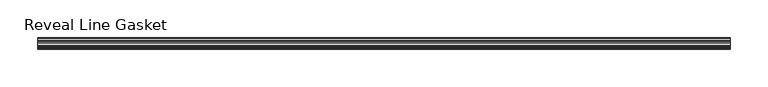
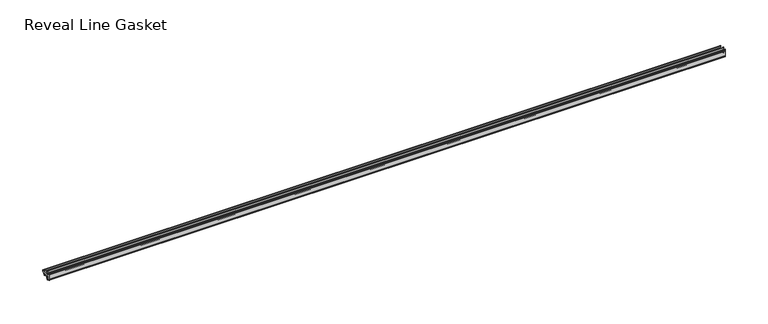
"""IFC4 building model written with IfcOpenShell, lengths in millimetres: proxy geometry, Accessories-Teknion-FHGR-AI_Healthcare-Reveal_Line_Gasket(Horizontal)-R2022 : Reveal Line Gasket."""

from ifc_helpers import new_model, si_unit, point, frame, frame_2d, origin, place, context, project, spatial, polyline, circle_curve, trimmed, segment, composite_curve, outline, extrude, source, transform, mapped, element, save


def reveal_line_gasket_f4986db1(model_context):
    return source(origin(), model_context, "Body", "SweptSolid", [
        extrude(outline(composite_curve([segment(polyline([(-7.6326998, 1603.2), (-7.4091917, 1604.1554927), (-6.8813059, 1605.0884684)]), True, "CONTINUOUS"), segment(trimmed(circle_curve(frame_2d((-6.5243141, 1604.8864793)), 0.4101739), [point((-6.8813059, 1605.0884684))], [point((-6.1246704, 1604.7941347))], False, "CARTESIAN"), True, "CONTINUOUS"), segment(polyline([(-6.1246704, 1604.7941347), (-6.3626997, 1603.0979086), (-6.3626997, 1601.0654527)]), True, "CONTINUOUS"), segment(trimmed(circle_curve(frame_2d((-5.6959605, 1601.4819258)), 0.786124), [point((-6.3626997, 1601.0654527))], [point((-5.0926996, 1600.977875))], True, "CARTESIAN"), True, "CONTINUOUS"), segment(polyline([(-5.0926996, 1600.977875), (-0.7492996, 1600.977875), (-3.7293824, 1606.1395295)]), True, "CONTINUOUS"), segment(trimmed(circle_curve(frame_2d((-3.3132479, 1606.2049761)), 0.4212495), [point((-3.7293824, 1606.1395295))], [point((-3.0485022, 1606.5326358))], False, "CARTESIAN"), True, "CONTINUOUS"), segment(polyline([(-3.0485022, 1606.5326358), (0.5742594, 1600.977875), (4.8262978, 1600.977875), (3.1660374, 1603.8535297)]), True, "CONTINUOUS"), segment(trimmed(circle_curve(frame_2d((3.5978728, 1603.9118855)), 0.4357605), [point((3.1660374, 1603.8535297))], [point((3.864328, 1604.2566881))], False, "CARTESIAN"), True, "CONTINUOUS"), segment(polyline([(3.864328, 1604.2566881), (6.1944059, 1600.977875), (7.6326998, 1600.977875), (7.6326998, 1599.422125), (6.1944059, 1599.422125), (3.864328, 1596.1433119)]), True, "CONTINUOUS"), segment(trimmed(circle_curve(frame_2d((3.5978728, 1596.4881145)), 0.4357605), [point((3.864328, 1596.1433119))], [point((3.1660374, 1596.5464703))], False, "CARTESIAN"), True, "CONTINUOUS"), segment(polyline([(3.1660374, 1596.5464703), (4.8262978, 1599.422125), (0.5742594, 1599.422125), (-3.0485022, 1593.8673642)]), True, "CONTINUOUS"), segment(trimmed(circle_curve(frame_2d((-3.3132479, 1594.1950239)), 0.4212495), [point((-3.0485022, 1593.8673642))], [point((-3.7293824, 1594.2604705))], False, "CARTESIAN"), True, "CONTINUOUS"), segment(polyline([(-3.7293824, 1594.2604705), (-0.7492996, 1599.422125), (-5.0926996, 1599.422125)]), True, "CONTINUOUS"), segment(trimmed(circle_curve(frame_2d((-5.6959605, 1598.9180742)), 0.786124), [point((-5.0926996, 1599.422125))], [point((-6.3626997, 1599.3345473))], True, "CARTESIAN"), True, "CONTINUOUS"), segment(polyline([(-6.3626997, 1599.3345473), (-6.3626997, 1597.3020914), (-6.1246704, 1595.6058653)]), True, "CONTINUOUS"), segment(trimmed(circle_curve(frame_2d((-6.5243141, 1595.5135207)), 0.4101739), [point((-6.1246704, 1595.6058653))], [point((-6.8813059, 1595.3115316))], False, "CARTESIAN"), True, "CONTINUOUS"), segment(polyline([(-6.8813059, 1595.3115316), (-7.4091917, 1596.2445073), (-7.6326998, 1597.2), (-7.6326998, 1603.2)]), True, "CONTINUOUS")], self_intersect=False)), frame((-459.2490674, 0.0, 0.0), z_axis=(1.0, 0.0, 0.0), x_axis=(0.0, 1.0, 0.0)), (0.0, 0.0, 1.0), 918.4981348),
    ])


if __name__ == "__main__":
    model = new_model("IFC4")
    model_context = context("Model", 3, world=origin())
    ifc_project = project(units=[si_unit("LENGTHUNIT", "METRE", prefix="MILLI")], contexts=[model_context])
    site = spatial("IfcSite", under=ifc_project)
    building = spatial("IfcBuilding", under=site)
    placement = place(None, origin())
    reveal_line_gasket_shape = reveal_line_gasket_f4986db1(model_context)
    element("IfcBuildingElementProxy", 1, Name="Accessories-Teknion-FHGR-AI_Healthcare-Reveal_Line_Gasket(Horizontal)-R2022 : Reveal Line Gasket", ObjectType="Accessories-Teknion-FHGR-AI_Healthcare-Reveal_Line_Gasket(Horizontal)-R2022 : Reveal Line Gasket", at=placement, inside=building, context=model_context, shape_type="MappedRepresentation", body=[
        mapped(reveal_line_gasket_shape, transform((0.0, 0.0, 0.0), x_axis=(1.0, 0.0, 0.0), y_axis=(0.0, 1.0, 0.0), z_axis=(0.0, 0.0, 1.0))),
    ])
    save(model, "model.ifc")
